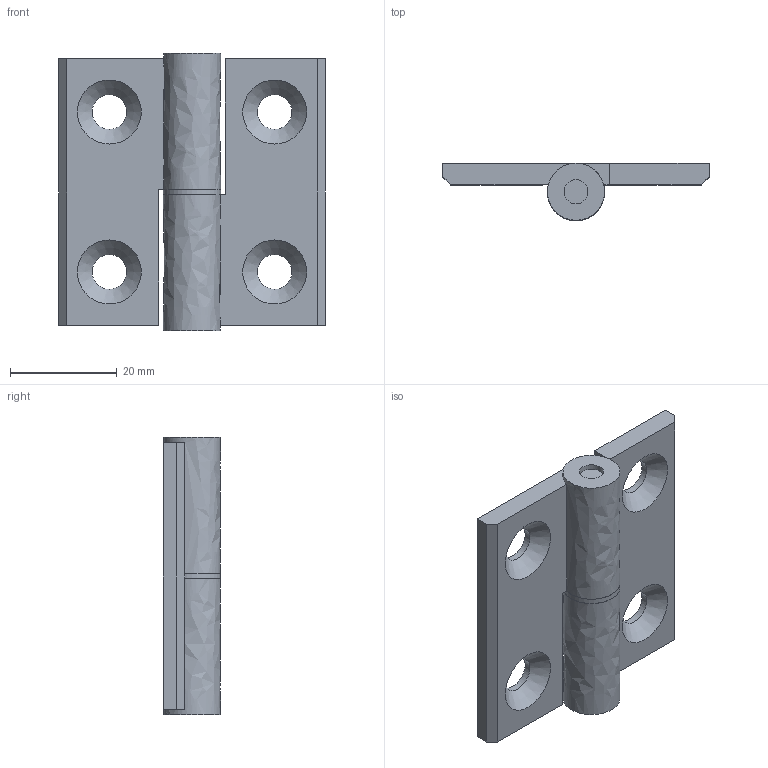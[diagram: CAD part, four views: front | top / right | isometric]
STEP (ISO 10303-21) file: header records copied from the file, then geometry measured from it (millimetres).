
FILE_DESCRIPTION((''),'2;1');
FILE_NAME('E:\catalogue and flyer\Profile catalogue 2015\Accessories ACC info\Accessories ACC step file 31Mar16\ACC-MHR5050-8.stp','2016-04-07T13:25:47',('h029'),(''),'Autodesk Inventor 11','Autodesk Inventor 11','');
FILE_SCHEMA(('AUTOMOTIVE_DESIGN { 1 0 10303 214 1 1 1 1 }'));
Length unit declared in the file: millimetre
Products named in the file (4): ACC-MHR5050-8; hinge part 1_MIR; pin_MIR; washer_MIR
Assembly tree (4 placements, depth 2):
  ACC-MHR5050-8
    hinge part 1_MIR  x2
    pin_MIR
    washer_MIR
Bounding box: 50 x 10.7 x 52 mm (x, y, z)
Volume: 11723 mm3; surface area: 8075.4 mm2
Topology: 4 solids, 4 shells, 43 faces, 93 edges, 62 vertices
Faces by surface type: bspline 35, cone 4, cylinder 4
Full cylindrical faces by diameter (mm): 6.5 x4
Entity records: 788 total; most frequent: CARTESIAN_POINT 249, DIRECTION 81, ORIENTED_EDGE 76, EDGE_LOOP 43, EDGE_CURVE 38, AXIS2_PLACEMENT_3D 31, VERTEX_POINT 31, FACE_OUTER_BOUND 25
